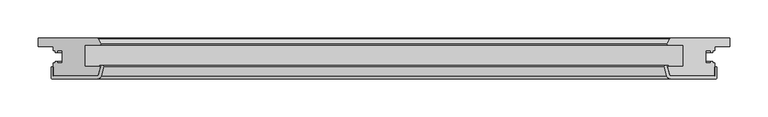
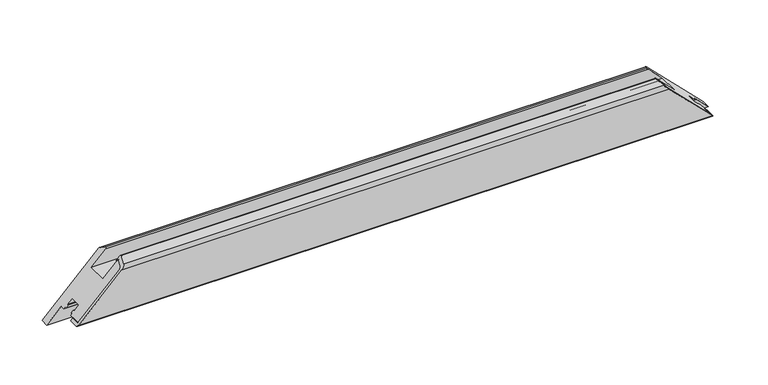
"""IFC4 building model written with IfcOpenShell, lengths in millimetres: proxy geometry, Weiku - Montante - Folha 02.2.01.017 : Weiku - Montante - Folha 02.2.01.017."""

from ifc_helpers import new_model, si_unit, frame, origin, place, context, project, spatial, polyline, ellipse_curve, source, transform, mapped, element, save
from ifc_brep_helpers import plane_surface, cylinder_surface, revolved_surface, advanced_brep


def generic_models_0e28b91c(model_context):
    return source(origin(), model_context, "Body", "AdvancedBrep", [
        advanced_brep(
        [(434.0, -50.0, 20.0), (-434.0, -50.0, 20.0), (-376.9997332, -50.0, 77.0002668), (376.9997332, -50.0, 77.0002668), (-374.1019557, -47.7764571, 79.8980443), (374.1019557, -47.7764571, 79.8980443), (-371.5170371, -38.1294095, 82.4829629), (371.5170371, -38.1294095, 82.4829629), (-372.0, -37.5, 82.0), (372.0, -37.5, 82.0), (-372.8560102, -37.5, 81.1439898), (372.8560102, -37.5, 81.1439898), (-372.8560102, -36.5, 81.1439898), (372.8560102, -36.5, 81.1439898), (-368.2425588, -36.5, 85.7574412), (368.2425588, -36.5, 85.7574412), (-367.2766329, -37.758819, 86.7233671), (367.2766329, -37.758819, 86.7233671), (-370.6354501, -50.2940952, 83.3645499), (370.6354501, -50.2940952, 83.3645499), (-375.4650792, -54.0, 78.5349208), (375.4650792, -54.0, 78.5349208), (-435.0, -54.0, 19.0), (435.0, -54.0, 19.0), (-437.0, -52.0, 17.0), (437.0, -52.0, 17.0), (-437.0, -38.5, 17.0), (437.0, -38.5, 17.0), (-434.0, -38.5, 20.0), (434.0, -38.5, 20.0)],
        [
            (0, 1),
            (1, 2),
            (2, 3),
            (3, 0),
            (2, 4, ellipse_curve(frame((-376.9997332, -47.0, 77.0002668), z_axis=(-0.7071067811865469, 0.0, 0.7071067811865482), x_axis=(0.707106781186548, 0.0, 0.7071067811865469)), 4.2426407, 3.0)),
            (4, 5),
            (5, 3, ellipse_curve(frame((376.9997332, -47.0, 77.0002668), z_axis=(0.7071067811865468, 0.0, 0.7071067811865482), x_axis=(0.7071067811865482, 0.0, -0.7071067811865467)), 4.2426407, 3.0)),
            (4, 6),
            (6, 7),
            (7, 5),
            (6, 8, ellipse_curve(frame((-372.0, -38.0, 82.0), z_axis=(-0.7071067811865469, 0.0, 0.7071067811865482), x_axis=(0.707106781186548, 0.0, 0.7071067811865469)), 0.7071068, 0.5)),
            (8, 9),
            (9, 7, ellipse_curve(frame((372.0, -38.0, 82.0), z_axis=(0.7071067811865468, 0.0, 0.7071067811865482), x_axis=(0.7071067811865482, 0.0, -0.7071067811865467)), 0.7071068, 0.5)),
            (8, 10),
            (10, 11),
            (11, 9),
            (10, 12, ellipse_curve(frame((-372.8560102, -37.0, 81.1439898), z_axis=(0.7071067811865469, 0.0, -0.7071067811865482), x_axis=(-0.707106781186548, 0.0, -0.7071067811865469)), 0.7071068, 0.5)),
            (12, 13),
            (13, 11, ellipse_curve(frame((372.8560102, -37.0, 81.1439898), z_axis=(-0.7071067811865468, 0.0, -0.7071067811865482), x_axis=(-0.7071067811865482, 0.0, 0.7071067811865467)), 0.7071068, 0.5)),
            (12, 14),
            (14, 15),
            (15, 13),
            (14, 16, ellipse_curve(frame((-368.2425588, -37.5, 85.7574412), z_axis=(0.7071067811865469, 0.0, -0.7071067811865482), x_axis=(-0.707106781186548, 0.0, -0.7071067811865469)), 1.4142136, 1.0)),
            (16, 17),
            (17, 15, ellipse_curve(frame((368.2425588, -37.5, 85.7574412), z_axis=(-0.7071067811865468, 0.0, -0.7071067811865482), x_axis=(-0.7071067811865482, 0.0, 0.7071067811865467)), 1.4142136, 1.0)),
            (16, 18),
            (18, 19),
            (19, 17),
            (18, 20, ellipse_curve(frame((-375.4650792, -49.0, 78.5349208), z_axis=(0.7071067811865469, 0.0, -0.7071067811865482), x_axis=(-0.707106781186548, 0.0, -0.7071067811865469)), 7.0710678, 5.0)),
            (20, 21),
            (21, 19, ellipse_curve(frame((375.4650792, -49.0, 78.5349208), z_axis=(-0.7071067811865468, 0.0, -0.7071067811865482), x_axis=(-0.7071067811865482, 0.0, 0.7071067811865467)), 7.0710678, 5.0)),
            (20, 22),
            (22, 23),
            (23, 21),
            (22, 24, ellipse_curve(frame((-435.0, -52.0, 19.0), z_axis=(0.7071067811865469, 0.0, -0.7071067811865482), x_axis=(-0.707106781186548, 0.0, -0.7071067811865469)), 2.8284271, 2.0)),
            (24, 25),
            (25, 23, ellipse_curve(frame((435.0, -52.0, 19.0), z_axis=(-0.7071067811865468, 0.0, -0.7071067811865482), x_axis=(-0.7071067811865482, 0.0, 0.7071067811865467)), 2.8284271, 2.0)),
            (24, 26),
            (26, 27),
            (27, 25),
            (26, 28),
            (28, 29),
            (29, 27),
            (28, 1),
            (0, 29),
        ],
        [
            plane_surface(frame((-474.0, -50.0, 20.0), z_axis=(0.0, 1.0, 0.0), x_axis=(1.0, 0.0, 0.0))),
            revolved_surface(polyline([(379.99973320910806, -50.0, 77.0002668), (-379.99973320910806, -50.0, 77.0002668)]), (-474.0, -47.0, 77.0002668), (1.0, 0.0, 0.0)),
            plane_surface(frame((-474.0, -47.7764571, 79.8980443), z_axis=(0.0, 0.2588190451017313, -0.9659258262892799), x_axis=(1.0, 0.0, 0.0))),
            revolved_surface(polyline([(372.50000001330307, -38.5, 82.0), (-372.5000000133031, -38.5, 82.0)]), (-474.0, -38.0, 82.0), (1.0, 0.0, 0.0)),
            plane_surface(frame((-474.0, -37.5, 82.0), z_axis=(0.0, -1.0, 0.0), x_axis=(1.0, 0.0, 0.0))),
            cylinder_surface(frame((-474.0, -37.0, 81.1439898), z_axis=(-1.0, 0.0, 0.0), x_axis=(0.0, -1.0, 0.0)), 0.5),
            plane_surface(frame((-474.0, -36.5, 81.1439898), z_axis=(0.0, 1.0, 0.0), x_axis=(1.0, 0.0, 0.0))),
            cylinder_surface(frame((-474.0, -37.5, 85.7574412), z_axis=(-1.0, 0.0, 0.0), x_axis=(0.0, -1.0, 0.0)), 1.0),
            plane_surface(frame((-474.0, -37.758819, 86.7233671), z_axis=(0.0, -0.25881904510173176, 0.9659258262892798), x_axis=(1.0, 0.0, 0.0))),
            cylinder_surface(frame((-474.0, -49.0, 78.5349208), z_axis=(-1.0, 0.0, 0.0), x_axis=(0.0, -1.0, 0.0)), 5.0),
            plane_surface(frame((-474.0, -54.0, 78.5349208), z_axis=(0.0, -1.0, 0.0), x_axis=(1.0, 0.0, 0.0))),
            cylinder_surface(frame((-474.0, -52.0, 19.0), z_axis=(-1.0, 0.0, 0.0), x_axis=(0.0, -1.0, 0.0)), 2.0),
            plane_surface(frame((-474.0, -52.0, 17.0), z_axis=(0.0, 0.0, -1.0), x_axis=(1.0, 0.0, 0.0))),
            plane_surface(frame((-474.0, -38.5, 17.0), z_axis=(0.0, 1.0, 0.0), x_axis=(1.0, 0.0, 0.0))),
            plane_surface(frame((-474.0, -38.5, 20.0), z_axis=(0.0, 0.0, 1.0), x_axis=(1.0, 0.0, 0.0))),
            plane_surface(frame((364.0, 0.0, 90.0), z_axis=(0.7071067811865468, 0.0, 0.7071067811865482), x_axis=(0.0, -1.0, 0.0))),
            plane_surface(frame((-482.2842712, 0.0, -28.2842712), z_axis=(-0.7071067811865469, 0.0, 0.7071067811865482), x_axis=(0.0, -1.0, 0.0))),
        ],
        [
            (0, [[1, 2, 3, 4]]),
            (1, [[-3, 5, 6, 7]]),
            (2, [[-6, 8, 9, 10]]),
            (3, [[-9, 11, 12, 13]]),
            (4, [[-12, 14, 15, 16]]),
            (5, [[-15, 17, 18, 19]]),
            (6, [[-18, 20, 21, 22]]),
            (7, [[-21, 23, 24, 25]]),
            (8, [[-24, 26, 27, 28]]),
            (9, [[-27, 29, 30, 31]]),
            (10, [[-30, 32, 33, 34]]),
            (11, [[-33, 35, 36, 37]]),
            (12, [[-36, 38, 39, 40]]),
            (13, [[-39, 41, 42, 43]]),
            (14, [[-42, 44, -1, 45]]),
            (15, [[-7, -10, -13, -16, -19, -22, -25, -28, -31, -34, -37, -40, -43, -45, -4]]),
            (16, [[-44, -41, -38, -35, -32, -29, -26, -23, -20, -17, -14, -11, -8, -5, -2]]),
        ],
    ),
        advanced_brep(
        [(-434.0, -50.0, 20.0), (434.0, -50.0, 20.0), (376.9997332, -50.0, 77.0002668), (-376.9997332, -50.0, 77.0002668), (-454.0, 0.0, 0.0), (-375.9872264, 0.0, 78.0127736), (375.9872264, 0.0, 78.0127736), (454.0, 0.0, 0.0), (-374.1019557, -47.7764571, 79.8980443), (-371.5170371, -38.1294095, 82.4829629), (-372.0, -37.5, 82.0), (-392.5, -37.5, 61.5), (-392.5, -9.5, 61.5), (-372.7134285, -9.5, 81.2865715), (-371.5512796, -7.617411, 82.4487204), (-375.0932657, -0.5518546, 78.9067343), (-454.0, -11.5, 0.0), (-434.0, -11.5, 20.0), (-434.0, -16.9, 20.0), (-431.8, -16.9, 22.2), (-431.8, -18.9, 22.2), (-429.0, -18.9, 25.0), (-429.0, -16.9, 25.0), (-422.5, -16.9, 31.5), (-422.5, -33.1, 31.5), (-429.0, -33.1, 25.0), (-429.0, -31.1, 25.0), (-431.8, -31.1, 22.2), (-431.8, -33.1, 22.2), (-434.0, -33.1, 20.0), (434.0, -33.1, 20.0), (431.8, -33.1, 22.2), (431.8, -31.1, 22.2), (429.0, -31.1, 25.0), (429.0, -33.1, 25.0), (422.5, -33.1, 31.5), (422.5, -16.9, 31.5), (429.0, -16.9, 25.0), (429.0, -18.9, 25.0), (431.8, -18.9, 22.2), (431.8, -16.9, 22.2), (434.0, -16.9, 20.0), (434.0, -11.5, 20.0), (454.0, -11.5, 0.0), (375.0932657, -0.5518546, 78.9067343), (371.5512796, -7.617411, 82.4487204), (372.7134285, -9.5, 81.2865715), (392.5, -9.5, 61.5), (392.5, -37.5, 61.5), (372.0, -37.5, 82.0), (371.5170371, -38.1294095, 82.4829629), (374.1019557, -47.7764571, 79.8980443)],
        [
            (0, 1),
            (1, 2),
            (2, 3),
            (3, 0),
            (4, 5),
            (5, 6),
            (6, 7),
            (7, 4),
            (3, 8, ellipse_curve(frame((-376.9997332, -47.0, 77.0002668), z_axis=(-0.7071067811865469, 0.0, 0.7071067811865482), x_axis=(-0.707106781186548, 0.0, -0.7071067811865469)), 4.2426407, 3.0)),
            (8, 9),
            (9, 10, ellipse_curve(frame((-372.0, -38.0, 82.0), z_axis=(-0.7071067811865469, 0.0, 0.7071067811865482), x_axis=(-0.707106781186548, 0.0, -0.7071067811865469)), 0.7071068, 0.5)),
            (10, 11),
            (11, 12),
            (12, 13),
            (13, 14, ellipse_curve(frame((-372.7134285, -8.2, 81.2865715), z_axis=(-0.7071067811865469, 0.0, 0.7071067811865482), x_axis=(-0.707106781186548, 0.0, -0.7071067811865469)), 1.8384776, 1.3)),
            (14, 15),
            (15, 5, ellipse_curve(frame((-375.9872264, -1.0, 78.0127736), z_axis=(-0.7071067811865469, 0.0, 0.7071067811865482), x_axis=(-0.707106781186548, 0.0, -0.7071067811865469)), 1.4142136, 1.0)),
            (4, 16),
            (16, 17),
            (17, 18),
            (18, 19),
            (19, 20),
            (20, 21),
            (21, 22),
            (22, 23),
            (23, 24),
            (24, 25),
            (25, 26),
            (26, 27),
            (27, 28),
            (28, 29),
            (29, 0),
            (1, 30),
            (30, 31),
            (31, 32),
            (32, 33),
            (33, 34),
            (34, 35),
            (35, 36),
            (36, 37),
            (37, 38),
            (38, 39),
            (39, 40),
            (40, 41),
            (41, 42),
            (42, 43),
            (43, 7),
            (6, 44, ellipse_curve(frame((375.9872264, -1.0, 78.0127736), z_axis=(0.7071067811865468, 0.0, 0.7071067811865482), x_axis=(-0.7071067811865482, 0.0, 0.7071067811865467)), 1.4142136, 1.0)),
            (44, 45),
            (45, 46, ellipse_curve(frame((372.7134285, -8.2, 81.2865715), z_axis=(0.7071067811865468, 0.0, 0.7071067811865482), x_axis=(-0.7071067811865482, 0.0, 0.7071067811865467)), 1.8384776, 1.3)),
            (46, 47),
            (47, 48),
            (48, 49),
            (49, 50, ellipse_curve(frame((372.0, -38.0, 82.0), z_axis=(0.7071067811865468, 0.0, 0.7071067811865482), x_axis=(-0.7071067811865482, 0.0, 0.7071067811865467)), 0.7071068, 0.5)),
            (50, 51),
            (51, 2, ellipse_curve(frame((376.9997332, -47.0, 77.0002668), z_axis=(0.7071067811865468, 0.0, 0.7071067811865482), x_axis=(-0.7071067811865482, 0.0, 0.7071067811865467)), 4.2426407, 3.0)),
            (15, 44),
            (14, 45),
            (13, 46),
            (12, 47),
            (11, 48),
            (10, 49),
            (9, 50),
            (8, 51),
            (29, 30),
            (28, 31),
            (27, 32),
            (26, 33),
            (25, 34),
            (24, 35),
            (23, 36),
            (22, 37),
            (21, 38),
            (20, 39),
            (19, 40),
            (18, 41),
            (17, 42),
            (16, 43),
        ],
        [
            plane_surface(frame((-454.0, -50.0, 77.0002668), z_axis=(0.0, -1.0, 0.0), x_axis=(1.0, 0.0, 0.0))),
            plane_surface(frame((-454.0, 0.0, 0.0), z_axis=(0.0, 1.0, 0.0), x_axis=(1.0, 0.0, 0.0))),
            plane_surface(frame((-482.2842712, 0.0, -28.2842712), z_axis=(-0.7071067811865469, 0.0, 0.7071067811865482), x_axis=(0.0, -1.0, 0.0))),
            plane_surface(frame((364.0, 0.0, 90.0), z_axis=(0.7071067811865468, 0.0, 0.7071067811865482), x_axis=(0.0, -1.0, 0.0))),
            cylinder_surface(frame((-454.0, -1.0, 78.0127736), z_axis=(-1.0, 0.0, 0.0), x_axis=(0.0, -1.0, 0.0)), 1.0),
            plane_surface(frame((-454.0, -0.5518546, 78.9067343), z_axis=(0.0, 0.4481453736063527, 0.8939606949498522), x_axis=(1.0, 0.0, 0.0))),
            cylinder_surface(frame((-454.0, -8.2, 81.2865715), z_axis=(-1.0, 0.0, 0.0), x_axis=(0.0, -1.0, 0.0)), 1.3),
            plane_surface(frame((-454.0, -9.5, 81.2865715), z_axis=(0.0, -1.0, 0.0), x_axis=(1.0, 0.0, 0.0))),
            plane_surface(frame((-454.0, -9.5, 61.5), z_axis=(0.0, 0.0, 1.0), x_axis=(1.0, 0.0, 0.0))),
            plane_surface(frame((-454.0, -37.5, 61.5), z_axis=(0.0, 1.0, 0.0), x_axis=(1.0, 0.0, 0.0))),
            cylinder_surface(frame((-454.0, -38.0, 82.0), z_axis=(-1.0, 0.0, 0.0), x_axis=(0.0, -1.0, 0.0)), 0.5),
            plane_surface(frame((-454.0, -38.1294095, 82.4829629), z_axis=(0.0, -0.2588190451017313, 0.9659258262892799), x_axis=(1.0, 0.0, 0.0))),
            cylinder_surface(frame((-454.0, -47.0, 77.0002668), z_axis=(-1.0, 0.0, 0.0), x_axis=(0.0, -1.0, 0.0)), 3.0),
            plane_surface(frame((-454.0, -50.0, 20.0), z_axis=(0.0, 0.0, -1.0), x_axis=(1.0, 0.0, 0.0))),
            plane_surface(frame((-454.0, -33.1, 20.0), z_axis=(0.0, 1.0, 0.0), x_axis=(1.0, 0.0, 0.0))),
            plane_surface(frame((-454.0, -33.1, 22.2), z_axis=(0.0, 0.0, -1.0), x_axis=(1.0, 0.0, 0.0))),
            plane_surface(frame((-454.0, -31.1, 22.2), z_axis=(0.0, 1.0, 0.0), x_axis=(1.0, 0.0, 0.0))),
            plane_surface(frame((-454.0, -31.1, 25.0), z_axis=(0.0, 0.0, 1.0), x_axis=(1.0, 0.0, 0.0))),
            plane_surface(frame((-454.0, -33.1, 25.0), z_axis=(0.0, 1.0, 0.0), x_axis=(1.0, 0.0, 0.0))),
            plane_surface(frame((-454.0, -33.1, 31.5), z_axis=(0.0, 0.0, -1.0), x_axis=(1.0, 0.0, 0.0))),
            plane_surface(frame((-454.0, -16.9, 31.5), z_axis=(0.0, -1.0, 0.0), x_axis=(1.0, 0.0, 0.0))),
            plane_surface(frame((-454.0, -16.9, 25.0), z_axis=(0.0, 0.0, 1.0), x_axis=(1.0, 0.0, 0.0))),
            plane_surface(frame((-454.0, -18.9, 25.0), z_axis=(0.0, -1.0, 0.0), x_axis=(1.0, 0.0, 0.0))),
            plane_surface(frame((-454.0, -18.9, 22.2), z_axis=(0.0, 0.0, -1.0), x_axis=(1.0, 0.0, 0.0))),
            plane_surface(frame((-454.0, -16.9, 22.2), z_axis=(0.0, -1.0, 0.0), x_axis=(1.0, 0.0, 0.0))),
            plane_surface(frame((-454.0, -16.9, 20.0), z_axis=(0.0, 0.0, -1.0), x_axis=(1.0, 0.0, 0.0))),
            plane_surface(frame((-454.0, -11.5, 20.0), z_axis=(0.0, -1.0, 0.0), x_axis=(1.0, 0.0, 0.0))),
            plane_surface(frame((-454.0, -11.5, 0.0), z_axis=(0.0, 0.0, -1.0), x_axis=(1.0, 0.0, 0.0))),
        ],
        [
            (0, [[1, 2, 3, 4]]),
            (1, [[5, 6, 7, 8]]),
            (2, [[9, 10, 11, 12, 13, 14, 15, 16, 17, -5, 18, 19, 20, 21, 22, 23, 24, 25, 26, 27, 28, 29, 30, 31, 32, -4]]),
            (3, [[33, 34, 35, 36, 37, 38, 39, 40, 41, 42, 43, 44, 45, 46, 47, -7, 48, 49, 50, 51, 52, 53, 54, 55, 56, -2]]),
            (4, [[57, -48, -6, -17]]),
            (5, [[58, -49, -57, -16]]),
            (6, [[59, -50, -58, -15]]),
            (7, [[60, -51, -59, -14]]),
            (8, [[61, -52, -60, -13]]),
            (9, [[62, -53, -61, -12]]),
            (10, [[63, -54, -62, -11]]),
            (11, [[64, -55, -63, -10]]),
            (12, [[-3, -56, -64, -9]]),
            (13, [[65, -33, -1, -32]]),
            (14, [[66, -34, -65, -31]]),
            (15, [[67, -35, -66, -30]]),
            (16, [[68, -36, -67, -29]]),
            (17, [[69, -37, -68, -28]]),
            (18, [[70, -38, -69, -27]]),
            (19, [[71, -39, -70, -26]]),
            (20, [[72, -40, -71, -25]]),
            (21, [[73, -41, -72, -24]]),
            (22, [[74, -42, -73, -23]]),
            (23, [[75, -43, -74, -22]]),
            (24, [[76, -44, -75, -21]]),
            (25, [[77, -45, -76, -20]]),
            (26, [[-46, -77, -19, 78]]),
            (27, [[-47, -78, -18, -8]]),
        ],
    ),
    ])


if __name__ == "__main__":
    model = new_model("IFC4")
    model_context = context("Model", 3, world=origin())
    ifc_project = project(units=[si_unit("LENGTHUNIT", "METRE", prefix="MILLI")], contexts=[model_context])
    site = spatial("IfcSite", under=ifc_project)
    building = spatial("IfcBuilding", under=site)
    placement = place(None, origin())
    generic_models_shape = generic_models_0e28b91c(model_context)
    element("IfcBuildingElementProxy", 1, Name="Weiku - Montante - Folha 02.2.01.017 : Weiku - Montante - Folha 02.2.01.017", ObjectType="Weiku - Montante - Folha 02.2.01.017 : Weiku - Montante - Folha 02.2.01.017", at=placement, inside=building, context=model_context, shape_type="MappedRepresentation", body=[
        mapped(generic_models_shape, transform((0.0, 0.0, 0.0), x_axis=(1.0, 0.0, 0.0), y_axis=(0.0, 1.0, 0.0), z_axis=(0.0, 0.0, 1.0))),
    ])
    save(model, "model.ifc")
